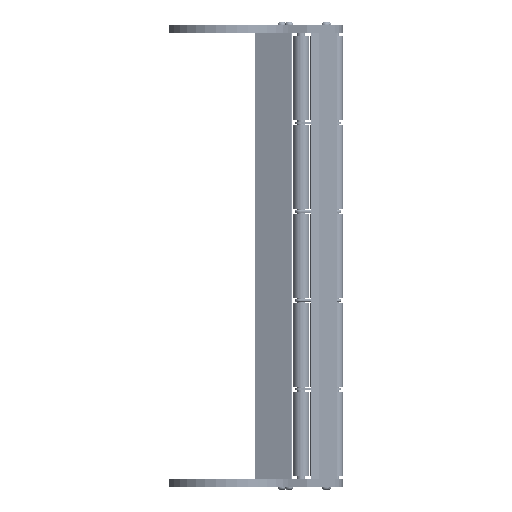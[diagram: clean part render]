
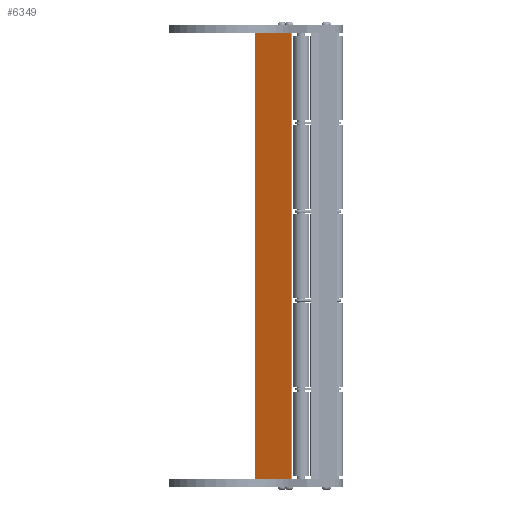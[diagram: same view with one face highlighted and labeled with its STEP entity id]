
A CAD part, front view. The second image highlights one B-rep face of the part: STEP entity #6349.
In plain terms, the highlighted planar face has unit normal (-0.342, -0.94, 0) as drawn and (0.342, -0.94, 0) by its records, which use the part's own axes.
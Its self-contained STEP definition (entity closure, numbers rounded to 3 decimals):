
#151 = DIRECTION ( 'NONE',  ( 0., 0., -1. ) ) ;
#239 = LINE ( 'NONE', #18551, #10668 ) ;
#374 = ORIENTED_EDGE ( 'NONE', *, *, #10576, .T. ) ;
#411 = LINE ( 'NONE', #13284, #11688 ) ;
#853 = CARTESIAN_POINT ( 'NONE',  ( 35., 12.137, 418. ) ) ;
#1063 = AXIS2_PLACEMENT_3D ( 'NONE', #853, #16648, #8105 ) ;
#1144 = CARTESIAN_POINT ( 'NONE',  ( 35., 12.137, 418. ) ) ;
#1272 = EDGE_CURVE ( 'NONE', #9490, #3720, #14477, .T. ) ;
#1289 = CARTESIAN_POINT ( 'NONE',  ( 1.655, 0., 418. ) ) ;
#2079 = PLANE ( 'NONE',  #1063 ) ;
#3720 = VERTEX_POINT ( 'NONE', #15879 ) ;
#4036 = CARTESIAN_POINT ( 'NONE',  ( 1.655, 0., 418. ) ) ;
#4310 = VECTOR ( 'NONE', #11359, 1000. ) ;
#4848 = FACE_OUTER_BOUND ( 'NONE', #15184, .T. ) ;
#5279 = VERTEX_POINT ( 'NONE', #13027 ) ;
#5587 = VERTEX_POINT ( 'NONE', #4036 ) ;
#6349 = ADVANCED_FACE ( 'NONE', ( #4848 ), #2079, .F. ) ;
#8105 = DIRECTION ( 'NONE',  ( -0.94, -0.342, 0. ) ) ;
#8907 = DIRECTION ( 'NONE',  ( 0.94, 0.342, 0. ) ) ;
#9375 = ORIENTED_EDGE ( 'NONE', *, *, #1272, .F. ) ;
#9490 = VERTEX_POINT ( 'NONE', #1144 ) ;
#9928 = DIRECTION ( 'NONE',  ( 0.94, 0.342, 0. ) ) ;
#10066 = LINE ( 'NONE', #1289, #16005 ) ;
#10576 = EDGE_CURVE ( 'NONE', #5279, #3720, #239, .T. ) ;
#10668 = VECTOR ( 'NONE', #9928, 1000. ) ;
#10846 = ORIENTED_EDGE ( 'NONE', *, *, #18176, .T. ) ;
#11359 = DIRECTION ( 'NONE',  ( 0., 0., -1. ) ) ;
#11688 = VECTOR ( 'NONE', #8907, 1000. ) ;
#13027 = CARTESIAN_POINT ( 'NONE',  ( 1.655, 0., 0. ) ) ;
#13284 = CARTESIAN_POINT ( 'NONE',  ( 1.655, 0., 418. ) ) ;
#14374 = CARTESIAN_POINT ( 'NONE',  ( 35., 12.137, 418. ) ) ;
#14477 = LINE ( 'NONE', #14374, #4310 ) ;
#15177 = ORIENTED_EDGE ( 'NONE', *, *, #16702, .F. ) ;
#15184 = EDGE_LOOP ( 'NONE', ( #374, #9375, #15177, #10846 ) ) ;
#15879 = CARTESIAN_POINT ( 'NONE',  ( 35., 12.137, 0. ) ) ;
#16005 = VECTOR ( 'NONE', #151, 1000. ) ;
#16648 = DIRECTION ( 'NONE',  ( -0.342, 0.94, 0. ) ) ;
#16702 = EDGE_CURVE ( 'NONE', #5587, #9490, #411, .T. ) ;
#18176 = EDGE_CURVE ( 'NONE', #5587, #5279, #10066, .T. ) ;
#18551 = CARTESIAN_POINT ( 'NONE',  ( 35., 12.137, 0. ) ) ;
